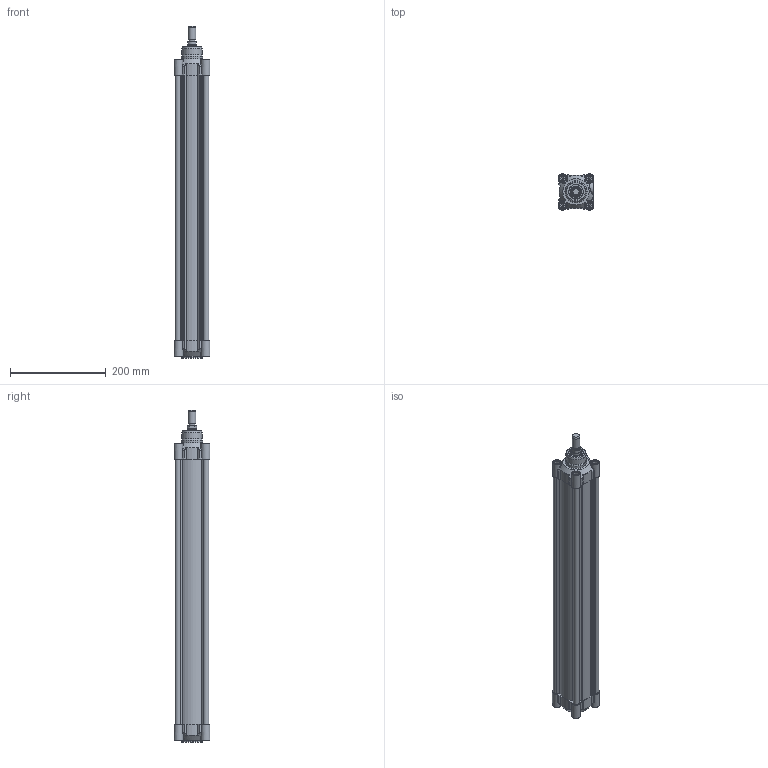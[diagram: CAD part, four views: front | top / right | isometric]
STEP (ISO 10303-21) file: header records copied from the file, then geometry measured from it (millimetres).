
FILE_DESCRIPTION(/* description */ ('CILINDRO D.E. MAGNETICO AMMORTIZZATO ISO 15552'),/* implementation_level */ '2;1');
FILE_NAME(/* name */ 'T:\Archivio Inventor\- 00 NUOVI STP PER SITO CON STELO CHE SI MUOVE\SERIE H - U\SERIE HDM\HDM063 - TUBO NUOVO\HDM063.500.GS.M.stp',/* time_stamp */ '2018-07-30T14:40:15+02:00',/* author */ ('carlo.corazza'),/* organization */ (''),/* preprocessor_version */ 'ST-DEVELOPER v16.5',/* originating_system */ 'Autodesk Inventor 2017',/* authorisation */ '');
FILE_SCHEMA (('AUTOMOTIVE_DESIGN { 1 0 10303 214 3 1 1 }'));
Length unit declared in the file: millimetre
Products named in the file (5): HDM063.500.GS.M; TP; TA; STELO-500; CORPO-500
Assembly tree (4 placements, depth 2):
  HDM063.500.GS.M
    TP
    TA
    STELO-500
    CORPO-500
Bounding box: 75 x 75 x 694 mm (x, y, z)
Volume: 975833.5 mm3; surface area: 512590.1 mm2
Topology: 4 solids, 27 shells, 1241 faces, 2936 edges, 1818 vertices
Faces by surface type: plane 368, cylinder 297, bspline 288, torus 108, cone 106, sphere 74
Full cylindrical faces by diameter (mm): 3 x2, 3.4 x2, 4.8 x2, 5.25 x2, 6.647 x8, 8 x8, 8.3 x12, 9.8 x4, 9.9 x2, 10 x6, 12 x3, 13 x8, 13.3 x8, 13.5 x1, 14.95 x2, 16 x1, 19.5 x1, 20 x1, 20.8 x1, 20.847 x1, 24 x1, 26 x2, 30 x3, 42 x1, 45 x2, 63 x1
Entity records: 40768 total; most frequent: CARTESIAN_POINT 13071, ORIENTED_EDGE 5326, DIRECTION 5100, EDGE_CURVE 2663, AXIS2_PLACEMENT_3D 2037, VERTEX_POINT 1763, EDGE_LOOP 1576, STYLED_ITEM 1245
